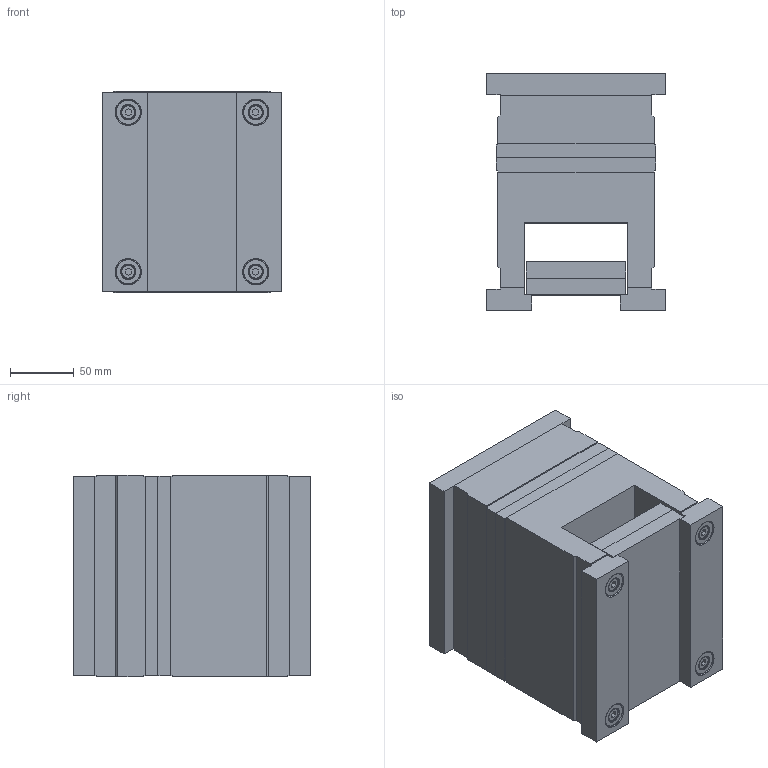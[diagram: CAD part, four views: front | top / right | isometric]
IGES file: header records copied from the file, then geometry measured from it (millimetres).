
Start section: SolidWorks IGES FILE using analytic representation for surfaces
Global section: file name: C:\Documents and Settings\K.P\My Documents\My Webs\almo\iges\1252.IGS; native system: SolidWorks 2001Plus by SolidWorks Corporation; preprocessor: Version 5.3; author: Pavel; date: 020709.091452; units: millimetre
Bounding box: 140 x 185.5 x 158 mm (x, y, z)
Surface area: 350453 mm2 (no closed solid volume)
Topology: 0 solids, 0 shells, 706 faces, 10312 edges, 10304 vertices
Faces by surface type: revolution 452, bspline 254
